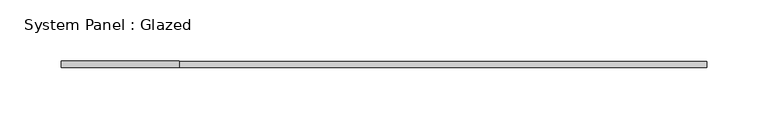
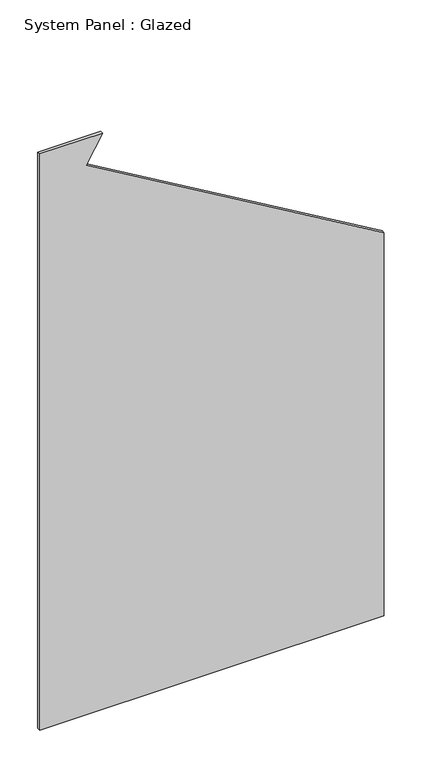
"""IFC4 building model written with IfcOpenShell, lengths in millimetres: plate geometry, System Panel : Glazed."""

from ifc_helpers import new_model, si_unit, frame, origin, place, context, project, spatial, polyline, outline, extrude, source, transform, mapped, element, save


def system_panel_glazed_f6ef7fd0(model_context):
    return source(origin(), model_context, "Body", "SweptSolid", [
        extrude(outline(polyline([(0.0, -262.5), (0.0, 262.5), (617.3304577, 262.5), (884.8700593, -191.9746023), (927.9584148, -166.6093973), (927.9584148, -262.5), (0.0, -262.5)])), frame((0.0, -2.5, 0.0), z_axis=(0.0, 1.0, 0.0), x_axis=(0.0, 0.0, 1.0)), (0.0, 0.0, 1.0), 5.0),
    ])


if __name__ == "__main__":
    model = new_model("IFC4")
    model_context = context("Model", 3, world=origin())
    ifc_project = project(units=[si_unit("LENGTHUNIT", "METRE", prefix="MILLI")], contexts=[model_context])
    site = spatial("IfcSite", under=ifc_project)
    building = spatial("IfcBuilding", under=site)
    placement = place(None, origin())
    system_panel_glazed_shape = system_panel_glazed_f6ef7fd0(model_context)
    element("IfcPlate", 1, ObjectType="System Panel : Glazed", at=placement, inside=building, context=model_context, shape_type="MappedRepresentation", body=[
        mapped(system_panel_glazed_shape, transform((0.0, 0.0, 0.0), x_axis=(1.0, 0.0, 0.0), y_axis=(0.0, 1.0, 0.0), z_axis=(0.0, 0.0, 1.0))),
    ])
    save(model, "model.ifc")
